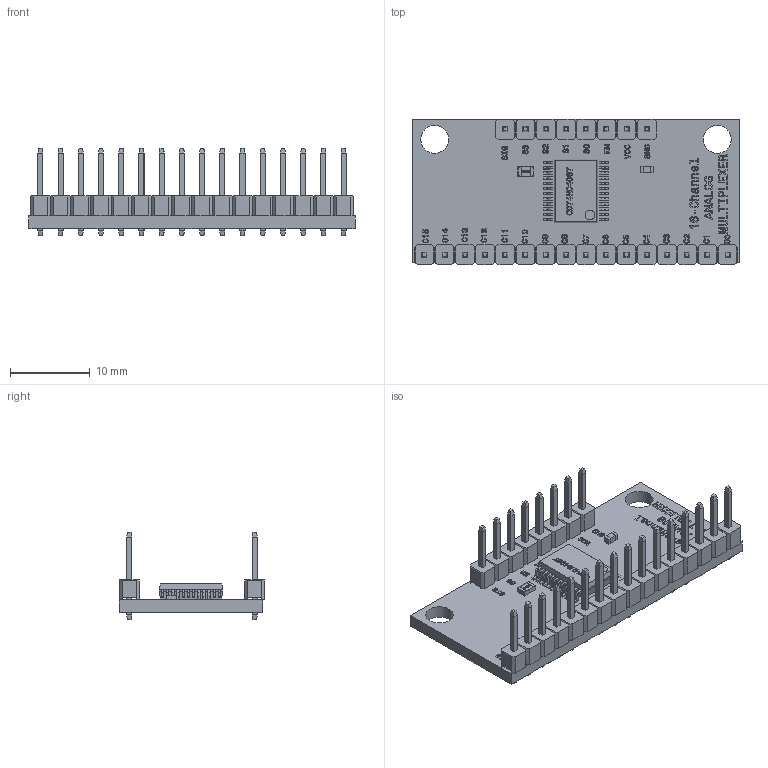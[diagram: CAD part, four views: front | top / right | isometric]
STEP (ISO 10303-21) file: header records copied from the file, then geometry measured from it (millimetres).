
FILE_DESCRIPTION (( 'STEP AP214' ), '1' );
FILE_NAME ('EL90130--STD--16-Channel Analog Digital Multiplexer.step', '2025-05-21T11:24:45', ( '' ), ( '' ), 'SwSTEP 2.0', 'SolidWorks 2025', '' );
FILE_SCHEMA (( 'AUTOMOTIVE_DESIGN' ));
Length unit declared in the file: millimetre
Products named in the file (1): EL90130--STD--16-Channel Analog Digital Multiplexer
Bounding box: 41 x 18.25 x 11 mm (x, y, z)
Volume: 1621.2 mm3; surface area: 3181.3 mm2
Topology: 33 solids, 33 shells, 4030 faces, 10978 edges, 7198 vertices
Faces by surface type: plane 3719, cylinder 258, bspline 45, sphere 8
Entity records: 165977 total; most frequent: CARTESIAN_POINT 24800, ORIENTED_EDGE 21812, DIRECTION 19281, EDGE_CURVE 10906, VECTOR 10293, LINE 10293, VERTEX_POINT 7166, AXIS2_PLACEMENT_3D 4494
